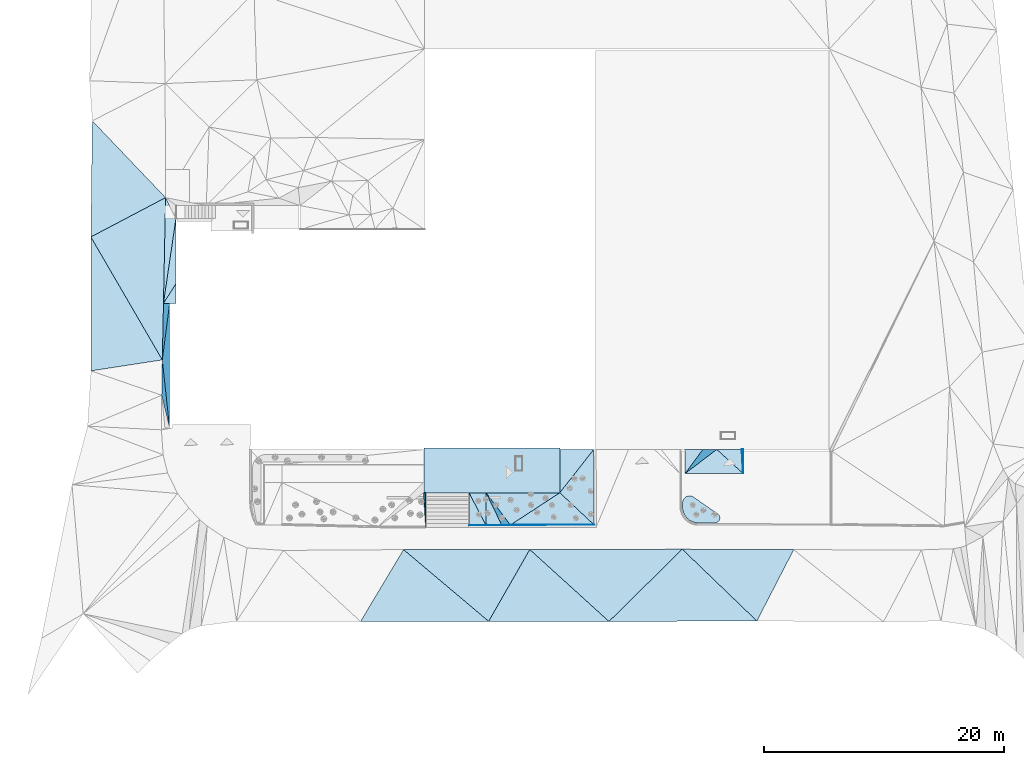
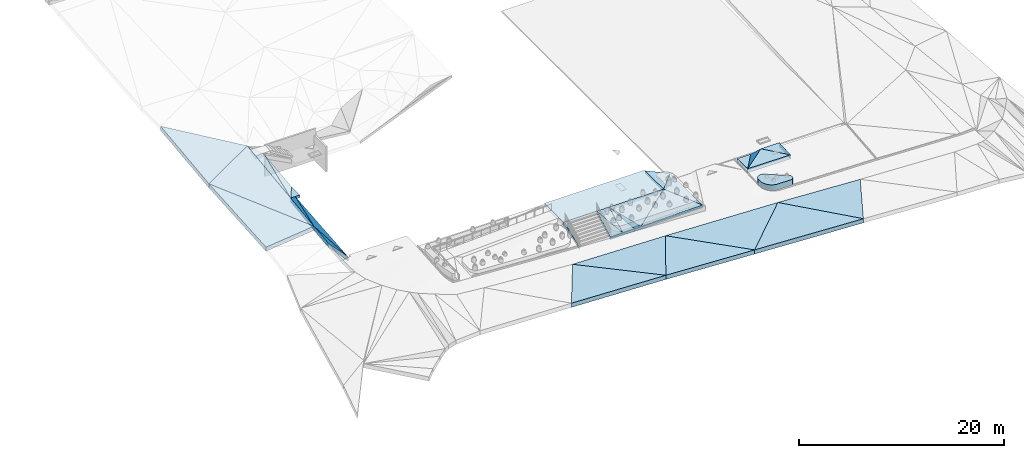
# One storey, part 2 of 23: 33 slabs, 8 elements without a shape of their own.
"""IFC2X3 building model written with IfcOpenShell, lengths in metres."""

from ifc_helpers import new_model, entity, si_unit, converted_unit, direction, frame, frame_2d, origin, place, context, subcontext, project, spatial, polyline, circle_curve, parameter, trimmed, segment, composite_curve, rectangle, outline, extrude, material, layer, layer_set, layer_usage, type_object, element, aggregate, save


model = new_model("IFC2X3")

# Units and contexts
model_context = context("Model", 3, precision=1e-05, world=origin(), true_north=direction((0.7716245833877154, 0.6360782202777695)))
body_context = subcontext(model_context, "Body", "Model", "MODEL_VIEW")
ifc_project = project(units=[si_unit("LENGTHUNIT", "METRE"), converted_unit("PLANEANGLEUNIT", "DEGREE", entity("IfcPlaneAngleMeasure", 0.017453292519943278), si_unit("PLANEANGLEUNIT", "RADIAN"), dimensions=[0, 0, 0, 0, 0, 0, 0]), si_unit("AREAUNIT", "SQUARE_METRE")], contexts=[model_context])

# Site, building, storey
site_placement = place(None, origin())
site = spatial("IfcSite", under=ifc_project, at=site_placement, Name="Default", CompositionType="ELEMENT")
building_placement = place(site_placement, origin())
building = spatial("IfcBuilding", under=site, at=building_placement, Name="<Building Name>", CompositionType="ELEMENT")
storey_placement = place(building_placement, origin())
storey = spatial("IfcBuildingStorey", under=building, at=storey_placement, Name="00 - HAV", CompositionType="ELEMENT", Elevation=0.0)

# Slabs
slab_1_placement = place(storey_placement, frame((222.4392111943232, 65.35219263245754, 32.77999999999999)))
slab_1 = element("IfcSlab", 1, at=slab_1_placement, inside=storey, Name="Floor:771 Grøntarealer", ObjectType="Floor:771 Grøntarealer", PredefinedType="NOTDEFINED")
ifc_material_1 = material(Name="815 - Terrain, Grøntareal")
ifc_layer_1 = layer(ifc_material_1, 0.02)
ifc_material_2 = material(Name="Site - Soil - Jordlag")
ifc_layer_2 = layer(ifc_material_2, 0.30000000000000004)
ifc_layer_set_1 = layer_set([ifc_layer_1, ifc_layer_2], Name="Floor:771 Grøntarealer")
slab_type_1 = type_object("IfcSlabType", Name="Floor:771 Grøntarealer", PredefinedType="NOTDEFINED")
slab_2_placement = place(slab_1_placement, origin())
slab_2 = element("IfcSlab", 2, at=slab_2_placement, type_object=slab_type_1, material=ifc_layer_set_1, Name="Floor:771 Grøntarealer", ObjectType="Floor:771 Grøntarealer", PredefinedType="NOTDEFINED", context=body_context, shape_type="SweptSolid", body=[
    extrude(outline(polyline([(-0.5121274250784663, -0.8002349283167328), (0.5118044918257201, -0.8002349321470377), (0.5121274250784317, 0.8002349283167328), (-0.5121274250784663, -0.8002349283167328)])), frame((0.6429468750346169, 0.8002349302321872, 1.2327956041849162), z_axis=(-0.004305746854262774, 8.687798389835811e-07, 0.9999907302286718), x_axis=(0.9999907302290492, 3.740780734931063e-09, 0.004305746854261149)), (-0.004305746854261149, 8.687878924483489e-07, -0.9999907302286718), 0.3200000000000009),
])
slab_3_placement = place(slab_1_placement, origin())
slab_3 = element("IfcSlab", 3, at=slab_3_placement, type_object=slab_type_1, material=ifc_layer_set_1, Name="Floor:771 Grøntarealer", ObjectType="Floor:771 Grøntarealer", PredefinedType="NOTDEFINED", context=body_context, shape_type="SweptSolid", body=[
    extrude(outline(polyline([(-0.525605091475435, -3.5253848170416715), (0.515767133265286, -1.9359995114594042), (0.5256050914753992, 3.525384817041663), (-0.525605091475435, -3.5253848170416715)])), frame((0.6477849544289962, 3.5112170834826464, 1.5602956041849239), z_axis=(0.18061672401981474, -0.11827817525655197, 0.9764158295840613), x_axis=(0.9835535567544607, 0.02172023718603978, -0.17930597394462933)), (0.17930597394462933, -0.120255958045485, -0.9764158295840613), 0.3200000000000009),
])
slab_4_placement = place(slab_1_placement, origin())
slab_4 = element("IfcSlab", 4, at=slab_4_placement, type_object=slab_type_1, material=ifc_layer_set_1, Name="Floor:771 Grøntarealer", ObjectType="Floor:771 Grøntarealer", PredefinedType="NOTDEFINED", context=body_context, shape_type="SweptSolid", body=[
    extrude(outline(polyline([(-0.08807669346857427, -4.4176086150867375), (0.9459197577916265, 2.635705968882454), (0.08807669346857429, 4.417608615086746), (-0.08807669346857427, -4.4176086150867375)])), frame((0.21889450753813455, 4.397626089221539, 1.6502956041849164), z_axis=(0.012039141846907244, -0.0952391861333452, 0.9953816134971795), x_axis=(0.9999275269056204, 0.0011466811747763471, -0.011984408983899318)), (0.011984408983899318, -0.09524608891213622, -0.9953816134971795), 0.3200000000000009),
])
aggregate(slab_1, [slab_2, slab_3, slab_4])

slab_5_placement = place(storey_placement, frame((215.88810139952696, 30.595880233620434, 28.880000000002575)))
slab_5 = element("IfcSlab", 5, at=slab_5_placement, inside=storey, Name="Floor:761 Asfalt - Kjørearealer", ObjectType="Floor:761 Asfalt - Kjørearealer", PredefinedType="NOTDEFINED")
ifc_material_3 = material(Name="Site - Asphalt - Asfaltbetong")
ifc_layer_3 = layer(ifc_material_3, 0.03)
ifc_material_4 = material(Name="A_Default_Building_Part")
ifc_layer_4 = layer(ifc_material_4, 0.07)
ifc_material_5 = material(Name="Site - Gravel - Stabilitet grus")
ifc_layer_5 = layer(ifc_material_5, 0.2)
ifc_material_6 = material(Name="Site - Gravel - Bunnsikringsgrus")
ifc_layer_6 = layer(ifc_material_6, 0.2)
ifc_layer_set_2 = layer_set([ifc_layer_3, ifc_layer_4, ifc_layer_5, ifc_layer_6], Name="Floor:761 Asfalt - Kjørearealer")
slab_type_2 = type_object("IfcSlabType", Name="Floor:761 Asfalt - Kjørearealer", PredefinedType="NOTDEFINED")
slab_6_placement = place(slab_5_placement, origin())
slab_6 = element("IfcSlab", 6, at=slab_6_placement, type_object=slab_type_2, material=ifc_layer_set_2, Name="Floor:761 Asfalt - Kjørearealer", ObjectType="Floor:761 Asfalt - Kjørearealer", PredefinedType="NOTDEFINED", context=body_context, shape_type="SweptSolid", body=[
    extrude(outline(polyline([(4.659958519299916, 2.948154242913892), (-4.624998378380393, 3.00270159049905), (1.5913248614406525, -2.9848793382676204), (4.659958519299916, 2.948154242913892)])), frame((54.4793851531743, 11.29769866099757, 1.579852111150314), z_axis=(0.04938591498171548, -0.030550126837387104, 0.9983124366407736), x_axis=(0.9987797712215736, 0.0015105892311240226, -0.04936280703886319)), (0.04936280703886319, -0.03058745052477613, -0.9983124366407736), 0.49999999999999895),
])
slab_7_placement = place(slab_5_placement, origin())
slab_7 = element("IfcSlab", 7, at=slab_7_placement, type_object=slab_type_2, material=ifc_layer_set_2, Name="Floor:761 Asfalt - Kjørearealer", ObjectType="Floor:761 Asfalt - Kjørearealer", PredefinedType="NOTDEFINED", context=body_context, shape_type="SweptSolid", body=[
    extrude(outline(polyline([(6.345283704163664, 3.0093155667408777), (-6.3542572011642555, 2.990321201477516), (0.24219244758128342, -2.9994628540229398), (6.345283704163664, 3.0093155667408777)])), frame((43.51948031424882, 11.278565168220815, 2.0875858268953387), z_axis=(0.038619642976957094, -0.019067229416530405, 0.9990720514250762), x_axis=(0.9992539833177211, 0.0007369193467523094, -0.038612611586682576)), (0.038612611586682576, -0.01908146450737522, -0.9990720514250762), 0.49999999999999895),
])
slab_8_placement = place(slab_5_placement, origin())
slab_8 = element("IfcSlab", 8, at=slab_8_placement, type_object=slab_type_2, material=ifc_layer_set_2, Name="Floor:761 Asfalt - Kjørearealer", ObjectType="Floor:761 Asfalt - Kjørearealer", PredefinedType="NOTDEFINED", context=body_context, shape_type="SweptSolid", body=[
    extrude(outline(polyline([(-0.05516787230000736, 5.996623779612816), (-6.161237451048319, -0.009128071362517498), (6.161237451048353, 0.009128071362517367), (-0.05516787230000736, 5.996623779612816)])), frame((49.915130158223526, 8.298223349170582, 1.7154999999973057), z_axis=(0.049651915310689, -0.030273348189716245, 0.9983076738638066), x_axis=(0.998766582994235, 0.0015049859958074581, -0.049629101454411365)), (0.049629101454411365, -0.03031073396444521, -0.9983076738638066), 0.49999999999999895),
])
slab_9_placement = place(slab_5_placement, origin())
slab_9 = element("IfcSlab", 9, at=slab_9_placement, type_object=slab_type_2, material=ifc_layer_set_2, Name="Floor:761 Asfalt - Kjørearealer", ObjectType="Floor:761 Asfalt - Kjørearealer", PredefinedType="NOTDEFINED", context=body_context, shape_type="SweptSolid", body=[
    extrude(outline(polyline([(5.2538422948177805, 2.98736928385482), (-5.256503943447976, 2.9826834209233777), (1.8291199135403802, -2.984211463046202), (5.2538422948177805, 2.98736928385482)])), frame((31.917854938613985, 11.27656791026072, 2.530977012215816), z_axis=(0.02568812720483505, 0.0020131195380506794, 0.9996679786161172), x_axis=(0.9996700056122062, -5.173034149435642e-05, -0.02568807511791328)), (0.02568807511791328, 0.002013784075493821, -0.9996679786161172), 0.49999999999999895),
])
slab_10_placement = place(slab_5_placement, origin())
slab_10 = element("IfcSlab", 10, at=slab_10_placement, type_object=slab_type_2, material=ifc_layer_set_2, Name="Floor:761 Asfalt - Kjørearealer", ObjectType="Floor:761 Asfalt - Kjørearealer", PredefinedType="NOTDEFINED", context=body_context, shape_type="SweptSolid", body=[
    extrude(outline(polyline([(-2.060447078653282, 5.151709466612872), (-5.487788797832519, -0.8183683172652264), (4.538300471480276, -0.835542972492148), (-2.060447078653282, 5.151709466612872)])), frame((39.228156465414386, 9.113184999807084, 2.241648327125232), z_axis=(0.04676305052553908, -0.010083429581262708, 0.9988551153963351), x_axis=(0.9989060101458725, 0.0004720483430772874, -0.04676066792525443)), (0.04676066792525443, -0.010094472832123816, -0.9988551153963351), 0.49999999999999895),
])
slab_11_placement = place(slab_5_placement, origin())
slab_11 = element("IfcSlab", 11, at=slab_11_placement, type_object=slab_type_2, material=ifc_layer_set_2, Name="Floor:761 Asfalt - Kjørearealer", ObjectType="Floor:761 Asfalt - Kjørearealer", PredefinedType="NOTDEFINED", context=body_context, shape_type="SweptSolid", body=[
    extrude(outline(polyline([(-2.1315307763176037, 5.342138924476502), (-5.715322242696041, -0.6457270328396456), (4.956978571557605, -0.6213277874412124), (-2.1315307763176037, 5.342138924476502)])), frame((28.793045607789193, 8.91676043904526, 2.6696075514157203), z_axis=(0.03838370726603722, 0.017098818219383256, 0.9991167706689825), x_axis=(0.999263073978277, -0.0006568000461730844, -0.038378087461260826)), (0.038378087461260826, 0.017111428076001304, -0.9991167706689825), 0.49999999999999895),
])
aggregate(slab_5, [slab_6, slab_7, slab_8, slab_9, slab_10, slab_11])

slab_12_placement = place(storey_placement, frame((210.63176110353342, 32.75602782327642, 31.369999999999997)))
slab_12 = element("IfcSlab", 12, at=slab_12_placement, inside=storey, Name="Floor:761 Asfalt - Kjørearealer", ObjectType="Floor:761 Asfalt - Kjørearealer", PredefinedType="NOTDEFINED")
slab_13_placement = place(slab_12_placement, origin())
slab_13 = element("IfcSlab", 13, at=slab_13_placement, type_object=slab_type_2, material=ifc_layer_set_2, Name="Floor:761 Asfalt - Kjørearealer", ObjectType="Floor:761 Asfalt - Kjørearealer", PredefinedType="NOTDEFINED", context=body_context, shape_type="SweptSolid", body=[
    extrude(outline(polyline([(-3.0279742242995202, 4.894513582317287), (-3.148657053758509, -4.817763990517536), (3.069850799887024, -1.5243827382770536), (-3.0279742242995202, 4.894513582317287)])), frame((9.044632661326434, 42.91023792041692, 3.6117064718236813), z_axis=(-0.0066829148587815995, -0.09978873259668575, 0.9949862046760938), x_axis=(0.9999776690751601, -0.0006668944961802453, 0.006649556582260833)), (-0.006649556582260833, -0.09979096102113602, -0.9949862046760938), 0.49999999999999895),
])
slab_14_placement = place(slab_12_placement, origin())
slab_14 = element("IfcSlab", 14, at=slab_14_placement, type_object=slab_type_2, material=ifc_layer_set_2, Name="Floor:761 Asfalt - Kjørearealer", ObjectType="Floor:761 Asfalt - Kjørearealer", PredefinedType="NOTDEFINED", context=body_context, shape_type="SweptSolid", body=[
    extrude(outline(polyline([(-2.9760973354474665, 5.58465898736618), (-2.962558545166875, -5.591852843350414), (2.9750140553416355, -4.690392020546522), (-2.9760973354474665, 5.58465898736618)])), frame((8.870524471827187, 32.55574165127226, 2.607594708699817), z_axis=(0.032978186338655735, -0.07239417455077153, 0.9968307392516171), x_axis=(0.9994560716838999, 0.0023887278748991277, -0.03289156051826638)), (0.03289156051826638, -0.07243357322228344, -0.9968307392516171), 0.49999999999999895),
])
slab_15_placement = place(slab_12_placement, origin())
slab_15 = element("IfcSlab", 15, at=slab_15_placement, type_object=slab_type_2, material=ifc_layer_set_2, Name="Floor:761 Asfalt - Kjørearealer", ObjectType="Floor:761 Asfalt - Kjørearealer", PredefinedType="NOTDEFINED", context=body_context, shape_type="SweptSolid", body=[
    extrude(outline(polyline([(-6.01700216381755, 3.377172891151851), (-0.06891264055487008, -6.899627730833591), (0.20159171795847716, 6.670391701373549), (-6.01700216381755, 3.377172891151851)])), frame((11.912830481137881, 34.75223575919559, 2.8354838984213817), z_axis=(-0.008504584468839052, -0.0963641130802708, 0.9953098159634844), x_axis=(0.9999638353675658, -0.000819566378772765, 0.008465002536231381)), (-0.008465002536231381, -0.09636759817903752, -0.9953098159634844), 0.49999999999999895),
])
aggregate(slab_12, [slab_13, slab_14, slab_15])

slab_16_placement = place(storey_placement, frame((222.42669369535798, 54.972793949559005, 32.49999999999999)))
slab_16 = element("IfcSlab", 16, at=slab_16_placement, inside=storey, Name="Floor:761 Asfalt - Kjørearealer", ObjectType="Floor:761 Asfalt - Kjørearealer", PredefinedType="NOTDEFINED")
slab_17_placement = place(slab_16_placement, origin())
slab_17 = element("IfcSlab", 17, at=slab_17_placement, type_object=slab_type_2, material=ifc_layer_set_2, Name="Floor:761 Asfalt - Kjørearealer", ObjectType="Floor:761 Asfalt - Kjørearealer", PredefinedType="NOTDEFINED", context=body_context, shape_type="SweptSolid", body=[
    extrude(outline(polyline([(0.3037382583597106, 2.3675404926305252), (-0.20938343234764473, 2.3673203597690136), (-0.3037382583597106, -2.3675404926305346), (0.3037382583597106, 2.3675404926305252)])), frame((0.35272319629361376, 8.023704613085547, 1.2765483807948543), z_axis=(-0.004296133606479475, -0.09936377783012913, 0.9950419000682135), x_axis=(0.9999907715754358, -0.0004268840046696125, 0.0042748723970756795)), (-0.0042748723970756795, -0.09936469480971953, -0.9950419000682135), 0.49999999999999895),
])
slab_18_placement = place(slab_16_placement, origin())
slab_18 = element("IfcSlab", 18, at=slab_18_placement, type_object=slab_type_2, material=ifc_layer_set_2, Name="Floor:761 Asfalt - Kjørearealer", ObjectType="Floor:761 Asfalt - Kjørearealer", PredefinedType="NOTDEFINED", context=body_context, shape_type="SweptSolid", body=[
    extrude(outline(polyline([(0.0, 5.210503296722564), (-0.6095758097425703, 0.4756921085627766), (0.0, -5.210503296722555), (0.0, 5.210503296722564)])), frame((0.6564586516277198, 5.189699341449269, 1.047945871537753), z_axis=(-0.08303124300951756, -0.08896351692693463, 0.9925680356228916), x_axis=(0.9965469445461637, -0.007412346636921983, 0.08269972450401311)), (-0.08269972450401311, -0.08927177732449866, -0.9925680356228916), 0.49999999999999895),
])
slab_19_placement = place(slab_16_placement, origin())
slab_19 = element("IfcSlab", 19, at=slab_19_placement, type_object=slab_type_2, material=ifc_layer_set_2, Name="Floor:761 Asfalt - Kjørearealer", ObjectType="Floor:761 Asfalt - Kjørearealer", PredefinedType="NOTDEFINED", context=body_context, shape_type="SweptSolid", body=[
    extrude(outline(polyline([(-0.3043133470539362, 2.8431485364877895), (-0.35339429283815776, -0.11165958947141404), (0.3043133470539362, -2.8431485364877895), (-0.3043133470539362, 2.8431485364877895)])), frame((0.35272319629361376, 2.8340052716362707, 0.8113974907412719), z_axis=(-0.06159868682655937, -0.08680770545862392, 0.9943188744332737), x_axis=(0.9981009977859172, -0.005357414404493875, 0.06136526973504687)), (-0.06136526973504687, -0.08697286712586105, -0.9943188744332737), 0.49999999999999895),
])
aggregate(slab_16, [slab_17, slab_18, slab_19])

slab_20_placement = place(storey_placement, frame((232.41792444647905, 46.699262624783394, 31.5084352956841)))
slab_20 = element("IfcSlab", 20, at=slab_20_placement, inside=storey, Name="Floor:771 Grøntarealer 2", ObjectType="Floor:771 Grøntarealer 2", PredefinedType="NOTDEFINED")
ifc_layer_7 = layer(ifc_material_1, 0.02)
ifc_layer_8 = layer(ifc_material_2, 0.30000000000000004)
ifc_layer_set_3 = layer_set([ifc_layer_7, ifc_layer_8], Name="Floor:771 Grøntarealer 2")
slab_type_3 = type_object("IfcSlabType", Name="Floor:771 Grøntarealer 2", PredefinedType="NOTDEFINED")
slab_21_placement = place(slab_20_placement, origin())
slab_21 = element("IfcSlab", 21, at=slab_21_placement, type_object=slab_type_3, material=ifc_layer_set_3, Name="Floor:771 Grøntarealer 2", ObjectType="Floor:771 Grøntarealer 2", PredefinedType="NOTDEFINED", context=body_context, shape_type="SweptSolid", body=[
    extrude(outline(polyline([(-0.18490922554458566, 1.5707071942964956), (0.00031867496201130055, -1.5815537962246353), (0.00031867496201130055, 1.5707071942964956), (-0.18490922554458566, 1.5707071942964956)])), frame((11.984909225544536, 1.4497124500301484, 0.957970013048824), z_axis=(0.0, -0.4033817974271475, 0.9150317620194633), x_axis=(1.0, 0.0, 0.0)), (0.0, -0.4033817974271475, -0.9150317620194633), 0.3200000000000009),
])
aggregate(slab_20, [slab_21])

slab_22_placement = place(storey_placement, frame((248.00315234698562, 46.8987892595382, 31.31531004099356)))
slab_22 = element("IfcSlab", 22, at=slab_22_placement, inside=storey, Name="Floor:771 Grøntarealer 2", ObjectType="Floor:771 Grøntarealer 2", PredefinedType="NOTDEFINED")
slab_23_placement = place(slab_22_placement, origin())
slab_23 = element("IfcSlab", 23, at=slab_23_placement, type_object=slab_type_3, material=ifc_layer_set_3, Name="Floor:771 Grøntarealer 2", ObjectType="Floor:771 Grøntarealer 2", PredefinedType="NOTDEFINED", context=body_context, shape_type="SweptSolid", body=[
    extrude(outline(polyline([(-1.5511281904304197, 1.7999542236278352), (-1.5511281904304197, -0.5509207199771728), (-1.5511281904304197, -1.7999542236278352), (1.5511281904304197, 1.7999542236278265), (-1.5511281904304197, 1.7999542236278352)])), frame((8.964559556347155, 4.487387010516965, 1.1377757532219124), z_axis=(0.4170604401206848, 0.0, 0.9088787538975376), x_axis=(0.9088787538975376, 0.0, -0.4170604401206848)), (0.4170604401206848, 0.0, -0.9088787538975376), 0.3200000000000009),
])
slab_24_placement = place(slab_22_placement, origin())
slab_24 = element("IfcSlab", 24, at=slab_24_placement, type_object=slab_type_3, material=ifc_layer_set_3, Name="Floor:771 Grøntarealer 2", ObjectType="Floor:771 Grøntarealer 2", PredefinedType="NOTDEFINED", context=body_context, shape_type="SweptSolid", body=[
    extrude(outline(polyline([(-3.125146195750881, 0.06210006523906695), (-3.847318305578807, 0.06144113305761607), (3.8473183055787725, -0.06144113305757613), (-3.125146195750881, 0.06210006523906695)])), frame((6.56923411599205, 0.004138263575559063, 0.4274228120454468), z_axis=(-0.004153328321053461, 0.9767002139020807, 0.21456803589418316), x_axis=(0.9999913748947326, 0.004056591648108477, 0.0008911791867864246)), (-0.0008911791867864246, 0.9767086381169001, -0.21456803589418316), 0.3200000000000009),
])
slab_25_placement = place(slab_22_placement, origin())
slab_25 = element("IfcSlab", 25, at=slab_25_placement, type_object=slab_type_3, material=ifc_layer_set_3, Name="Floor:771 Grøntarealer 2", ObjectType="Floor:771 Grøntarealer 2", PredefinedType="NOTDEFINED", context=body_context, shape_type="SweptSolid", body=[
    extrude(outline(polyline([(-3.474071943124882, -1.5293480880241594), (3.4992415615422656, -1.4708466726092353), (0.6371212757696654, 1.5055479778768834), (-3.474071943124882, -1.5293480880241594)])), frame((6.917733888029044, 1.3464705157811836, 1.1001457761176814), z_axis=(-0.016147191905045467, -0.44851545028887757, 0.8936292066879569), x_axis=(0.9998696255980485, -0.00724320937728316, 0.014431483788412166)), (-0.014431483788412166, -0.44857393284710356, -0.8936292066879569), 0.3200000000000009),
])
slab_26_placement = place(slab_22_placement, origin())
slab_26 = element("IfcSlab", 26, at=slab_26_placement, type_object=slab_type_3, material=ifc_layer_set_3, Name="Floor:771 Grøntarealer 2", ObjectType="Floor:771 Grøntarealer 2", PredefinedType="NOTDEFINED", context=body_context, shape_type="SweptSolid", body=[
    extrude(outline(polyline([(1.2648561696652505, -1.3505595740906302), (-0.7644906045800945, 1.6850597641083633), (0.5426888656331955, -1.3532753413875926), (1.2648561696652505, -1.3505595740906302)])), frame((2.179261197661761, 1.197970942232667, 0.9966974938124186), z_axis=(0.0019851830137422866, -0.46683732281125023, 0.8843409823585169), x_axis=(0.9999980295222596, 0.0009267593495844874, -0.0017555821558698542)), (0.0017555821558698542, -0.46683824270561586, -0.8843409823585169), 0.3200000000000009),
])
slab_27_placement = place(slab_22_placement, origin())
slab_27 = element("IfcSlab", 27, at=slab_27_placement, type_object=slab_type_3, material=ifc_layer_set_3, Name="Floor:771 Grøntarealer 2", ObjectType="Floor:771 Grøntarealer 2", PredefinedType="NOTDEFINED", context=body_context, shape_type="SweptSolid", body=[
    extrude(outline(polyline([(-0.9719375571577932, -2.9848741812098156), (3.1387196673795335, 0.050747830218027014), (-3.0012803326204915, 0.05074783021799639), (-0.9719375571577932, -2.9848741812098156)])), frame((4.416052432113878, 2.642585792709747, 1.7609393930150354), z_axis=(0.0, -0.4680114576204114, 0.8837223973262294), x_axis=(1.0, 0.0, 0.0)), (0.0, -0.4680114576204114, -0.8837223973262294), 0.3200000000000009),
])
slab_28_placement = place(slab_22_placement, origin())
slab_28 = element("IfcSlab", 28, at=slab_28_placement, type_object=slab_type_3, material=ifc_layer_set_3, Name="Floor:771 Grøntarealer 2", ObjectType="Floor:771 Grøntarealer 2", PredefinedType="NOTDEFINED", context=body_context, shape_type="SweptSolid", body=[
    extrude(outline(polyline([(-0.667544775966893, -1.5168697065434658), (0.6622631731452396, -1.5191830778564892), (-0.6449142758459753, 1.5191528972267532), (-0.667544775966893, -1.5168697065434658)])), frame((2.0596861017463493, 1.3445908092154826, 1.0743370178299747), z_axis=(-0.0009211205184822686, -0.4679434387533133, 0.8837579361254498), x_axis=(0.9999995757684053, -0.00043103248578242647, 0.0008140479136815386)), (-0.0008140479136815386, -0.46794363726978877, -0.8837579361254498), 0.3200000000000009),
])
slab_29_placement = place(slab_22_placement, origin())
slab_29 = element("IfcSlab", 29, at=slab_29_placement, type_object=slab_type_3, material=ifc_layer_set_3, Name="Floor:771 Grøntarealer 2", ObjectType="Floor:771 Grøntarealer 2", PredefinedType="NOTDEFINED", context=body_context, shape_type="SweptSolid", body=[
    extrude(outline(polyline([(0.6960315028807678, -1.5232838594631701), (0.7186619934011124, 1.512738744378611), (-0.6961101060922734, 1.5127387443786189), (0.6960315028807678, -1.5232838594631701)])), frame((0.6961101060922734, 1.3505422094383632, 1.0768043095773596), z_axis=(0.0, -0.4679497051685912, 0.8837550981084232), x_axis=(1.0, 0.0, 0.0)), (0.0, -0.4679497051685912, -0.8837550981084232), 0.3200000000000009),
])
slab_30_placement = place(slab_22_placement, origin())
slab_30 = element("IfcSlab", 30, at=slab_30_placement, type_object=slab_type_3, material=ifc_layer_set_3, Name="Floor:771 Grøntarealer 2", ObjectType="Floor:771 Grøntarealer 2", PredefinedType="NOTDEFINED", context=body_context, shape_type="SweptSolid", body=[
    extrude(outline(polyline([(1.2762762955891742, -1.2518522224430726), (-0.11634496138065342, 1.7839503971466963), (-0.11634496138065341, -1.2767050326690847), (1.2762762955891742, -1.2518522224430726)])), frame((0.11630488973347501, 1.119559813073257, 0.9336537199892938), z_axis=(-0.02624353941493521, -0.47838952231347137, 0.8777555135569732), x_axis=(0.9996555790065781, -0.012558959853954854, 0.023043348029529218)), (-0.023043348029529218, -0.4785543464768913, -0.8777555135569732), 0.3200000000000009),
])
slab_31_placement = place(slab_22_placement, origin())
slab_31 = element("IfcSlab", 31, at=slab_31_placement, type_object=slab_type_3, material=ifc_layer_set_3, Name="Floor:771 Grøntarealer 2", ObjectType="Floor:771 Grøntarealer 2", PredefinedType="NOTDEFINED", context=body_context, shape_type="SweptSolid", body=[
    extrude(outline(polyline([(0.03116717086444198, 0.022264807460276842), (-1.3609770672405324, -0.021849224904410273), (1.3609770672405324, 0.021849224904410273), (0.03116717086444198, 0.022264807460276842)])), frame((1.3609744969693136, 0.0008573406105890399, 0.34199203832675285), z_axis=(-0.0019434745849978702, -0.9873150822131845, 0.1587613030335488), x_axis=(0.9999981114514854, -0.001918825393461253, 0.0003085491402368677)), (-0.0003085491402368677, -0.9873169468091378, -0.1587613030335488), 0.3200000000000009),
])
slab_32_placement = place(slab_22_placement, origin())
slab_32 = element("IfcSlab", 32, at=slab_32_placement, type_object=slab_type_3, material=ifc_layer_set_3, Name="Floor:771 Grøntarealer 2", ObjectType="Floor:771 Grøntarealer 2", PredefinedType="NOTDEFINED", context=body_context, shape_type="SweptSolid", body=[
    extrude(outline(polyline([(1.5852150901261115, -3.128852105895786), (1.5388832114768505, 3.151897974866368), (-1.558800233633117, -0.45194618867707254), (1.5852150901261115, -3.128852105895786)])), frame((8.973623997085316, 3.1374048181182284, 1.1377757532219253), z_axis=(0.41412398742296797, 0.002780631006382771, 0.9102162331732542), x_axis=(0.910220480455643, -0.001265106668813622, -0.41412205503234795)), (0.41412205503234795, 0.003054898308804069, -0.9102162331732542), 0.3200000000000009),
])
aggregate(slab_22, [slab_23, slab_24, slab_25, slab_26, slab_27, slab_28, slab_29, slab_30, slab_31, slab_32])

# Slab
ifc_material_7 = material(Name="Site - Concrete - Betongbelegg")
ifc_layer_9 = layer(ifc_material_7, 0.08)
ifc_material_8 = material(Name="Site - Sand - Afretningssand")
ifc_layer_10 = layer(ifc_material_8, 0.03)
ifc_layer_11 = layer(ifc_material_5, 0.15000000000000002)
ifc_layer_12 = layer(ifc_material_6, 0.15000000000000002)
ifc_layer_set_4 = layer_set([ifc_layer_9, ifc_layer_10, ifc_layer_11, ifc_layer_12], Name="Floor:761 Betongbelegg - Gangarealer")
ifc_layer_usage = layer_usage(ifc_layer_set_4, "AXIS3", "POSITIVE", 0.0)
slab_type_4 = type_object("IfcSlabType", Name="Floor:761 Betongbelegg - Gangarealer", PredefinedType="FLOOR", material=ifc_layer_set_4)
slab_33_placement = place(storey_placement, origin())
element("IfcSlab", 33, at=slab_33_placement, inside=storey, type_object=slab_type_4, material=ifc_layer_usage, Name="Floor:761 Betongbelegg - Gangarealer", ObjectType="Floor:761 Betongbelegg - Gangarealer", PredefinedType="FLOOR", context=body_context, shape_type="SweptSolid", body=[
    extrude(rectangle(XDim=3.729033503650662, YDim=11.304772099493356, at=frame_2d((-4.3298697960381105e-15, 1.7319479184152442e-14), x_axis=(1.0, 0.0))), frame((249.90553839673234, 51.450738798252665, 33.1), z_axis=(0.0, 0.0, -1.0), x_axis=(0.0, 1.0, 0.0)), (0.0, 0.0, 1.0), 0.4100000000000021),
])

# Slabs
slab_34_placement = place(storey_placement, frame((265.9530017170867, 51.19163086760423, 30.37010664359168)))
slab_34 = element("IfcSlab", 34, at=slab_34_placement, inside=storey, Name="Floor:761 Asfalt - Gangarealer", ObjectType="Floor:761 Asfalt - Gangarealer", PredefinedType="NOTDEFINED")
ifc_material_9 = material(Name="Site - Aspahlt - Pulverasfalt")
ifc_layer_13 = layer(ifc_material_9, 0.025)
ifc_layer_14 = layer(ifc_material_4, 0.05)
ifc_layer_15 = layer(ifc_material_5, 0.1)
ifc_layer_16 = layer(ifc_material_6, 0.325)
ifc_layer_set_5 = layer_set([ifc_layer_13, ifc_layer_14, ifc_layer_15, ifc_layer_16], Name="Floor:761 Asfalt - Gangarealer")
slab_type_5 = type_object("IfcSlabType", Name="Floor:761 Asfalt - Gangarealer", PredefinedType="NOTDEFINED")
slab_35_placement = place(slab_34_placement, origin())
slab_35 = element("IfcSlab", 35, at=slab_35_placement, type_object=slab_type_5, material=ifc_layer_set_5, Name="Floor:761 Asfalt - Gangarealer", ObjectType="Floor:761 Asfalt - Gangarealer", PredefinedType="NOTDEFINED", context=body_context, shape_type="SweptSolid", body=[
    extrude(outline(polyline([(-1.134117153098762, -1.2619329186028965), (1.5547299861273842, 0.6793460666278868), (0.37689426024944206, 0.715237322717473), (-1.134117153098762, -1.2619329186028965)])), frame((1.1458447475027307, 1.2818204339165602, 0.5641872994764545), z_axis=(-0.2006135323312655, 0.1479790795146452, 0.9684298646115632), x_axis=(0.9796704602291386, 0.030302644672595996, 0.19831172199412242)), (-0.19831172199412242, 0.15104985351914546, -0.9684298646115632), 0.49999999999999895),
])
slab_36_placement = place(slab_34_placement, origin())
slab_36 = element("IfcSlab", 36, at=slab_36_placement, type_object=slab_type_5, material=ifc_layer_set_5, Name="Floor:761 Asfalt - Gangarealer", ObjectType="Floor:761 Asfalt - Gangarealer", PredefinedType="NOTDEFINED", context=body_context, shape_type="SweptSolid", body=[
    extrude(outline(polyline([(-0.25074554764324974, -1.3623251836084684), (1.229573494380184, 0.6379280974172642), (-0.2855298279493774, 0.637693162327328), (-0.25074554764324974, -1.3623251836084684)])), frame((0.2855248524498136, 1.3623162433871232, 0.5350460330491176), z_axis=(0.005903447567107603, -0.004868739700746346, 0.9999707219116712), x_axis=(0.9999825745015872, 2.8742850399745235e-05, -0.005903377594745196)), (0.005903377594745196, -0.0048688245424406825, -0.9999707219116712), 0.49999999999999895),
])
slab_37_placement = place(slab_34_placement, origin())
slab_37 = element("IfcSlab", 37, at=slab_37_placement, type_object=slab_type_5, material=ifc_layer_set_5, Name="Floor:761 Asfalt - Gangarealer", ObjectType="Floor:761 Asfalt - Gangarealer", PredefinedType="NOTDEFINED", context=body_context, shape_type="SweptSolid", body=[
    extrude(outline(polyline([(-2.408341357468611, -1.0067194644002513), (2.4071175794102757, -1.0096420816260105), (0.22589307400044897, 1.0080440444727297), (-2.408341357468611, -1.0067194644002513)])), frame((2.443079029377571, 1.0004426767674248, 0.6431192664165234), z_axis=(0.006180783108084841, -0.1271338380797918, 0.9918663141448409), x_axis=(0.9999808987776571, 0.0007858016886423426, -0.0061306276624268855)), (0.0061306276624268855, -0.12713626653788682, -0.9918663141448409), 0.49999999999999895),
])
slab_38_placement = place(slab_34_placement, origin())
slab_38 = element("IfcSlab", 38, at=slab_38_placement, type_object=slab_type_5, material=ifc_layer_set_5, Name="Floor:761 Asfalt - Gangarealer", ObjectType="Floor:761 Asfalt - Gangarealer", PredefinedType="NOTDEFINED", context=body_context, shape_type="SweptSolid", body=[
    extrude(outline(polyline([(-1.569732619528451, 0.49091027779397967), (0.6114502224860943, -1.5268208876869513), (0.5079679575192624, 0.4912887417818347), (-1.569732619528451, 0.49091027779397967)])), frame((4.238700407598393, 1.513988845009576, 0.7042034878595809), z_axis=(2.458124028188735e-05, -0.13373447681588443, 0.9910171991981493), x_axis=(1.0, 3.28735930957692e-06, -2.4360431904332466e-05)), (2.4360431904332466e-05, -0.13373447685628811, -0.9910171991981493), 0.49999999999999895),
])
slab_39_placement = place(slab_34_placement, origin())
slab_39 = element("IfcSlab", 39, at=slab_39_placement, type_object=slab_type_5, material=ifc_layer_set_5, Name="Floor:761 Asfalt - Gangarealer", ObjectType="Floor:761 Asfalt - Gangarealer", PredefinedType="NOTDEFINED", context=body_context, shape_type="SweptSolid", body=[
    extrude(outline(polyline([(-0.17282645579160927, 0.9992162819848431), (0.001031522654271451, -1.014051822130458), (0.0010315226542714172, 0.9901618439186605), (-0.17282645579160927, 0.9992162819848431)])), frame((4.849536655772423, 1.0127512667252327, 0.5665479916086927), z_axis=(0.8035690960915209, -0.038575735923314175, 0.5939601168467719), x_axis=(0.5952114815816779, 0.052079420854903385, -0.8018796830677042)), (0.8018796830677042, -0.064810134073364, -0.5939601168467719), 0.49999999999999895),
])
aggregate(slab_34, [slab_35, slab_36, slab_37, slab_38, slab_39])

# Roof, slab
ifc_material_10 = material(Name="Planting - Shrubs and hedges - Busker")
ifc_layer_17 = layer(ifc_material_10, 0.7000000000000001)
ifc_layer_set_6 = layer_set([ifc_layer_17], Name="Basic Roof:772 Stauder, Geranium phaeum (Storkenæb Bølgekronede)")
roof_placement = place(storey_placement, frame((265.7748519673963, 47.08645720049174, 30.5)))
roof = element("IfcRoof", 40, at=roof_placement, inside=storey, material=ifc_layer_set_6, Name="Basic Roof:772 Stauder, Geranium phaeum (Storkenæb Bølgekronede)", ObjectType="Basic Roof:772 Stauder, Geranium phaeum (Storkenæb Bølgekronede)", ShapeType="NOTDEFINED")
type_product = type_object("IfcTypeProduct", Name="Basic Roof:772 Stauder, Geranium phaeum (Storkenæb Bølgekronede)")
slab_40_placement = place(roof_placement, origin())
slab_40 = element("IfcSlab", 41, at=slab_40_placement, type_object=type_product, material=ifc_layer_set_6, Name="Basic Roof:772 Stauder, Geranium phaeum (Storkenæb Bølgekronede)", ObjectType="Basic Roof:772 Stauder, Geranium phaeum (Storkenæb Bølgekronede)", PredefinedType="ROOF", context=body_context, shape_type="SweptSolid", body=[
    extrude(outline(composite_curve([segment(trimmed(circle_curve(frame_2d((1.1492276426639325, -0.7209758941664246), x_axis=(1.0, 0.0)), 0.4), [parameter(269.95391888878)], [parameter(54.999999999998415)], True, "PARAMETER"), True, "CONTINUOUS"), segment(polyline([(1.3786582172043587, -0.39331507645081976), (-0.6337099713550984, 1.0157602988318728)]), True, "CONTINUOUS"), segment(trimmed(circle_curve(frame_2d((-0.96741867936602, 0.5391748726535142), x_axis=(1.0, 0.0)), 0.5818033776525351), [parameter(54.999999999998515)], [parameter(180.00000000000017)], True, "PARAMETER"), True, "CONTINUOUS"), segment(polyline([(-1.5492220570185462, 0.5391748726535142), (-1.5492220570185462, 0.18014912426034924)]), True, "CONTINUOUS"), segment(trimmed(circle_curve(frame_2d((-0.2492220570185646, 0.1801491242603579), x_axis=(1.0, 0.0)), 1.3), [parameter(180.0000000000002)], [parameter(269.9539188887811)], True, "PARAMETER"), True, "CONTINUOUS"), segment(polyline([(-0.25026760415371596, -1.1198504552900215), (1.1489059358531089, -1.1209757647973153)]), True, "CONTINUOUS")], self_intersect=False)), frame((1.5492220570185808, 1.1209757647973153, 0.0)), (0.0, 0.0, 1.0), 0.7000000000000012),
])
aggregate(roof, [slab_40])

save(model, "model.ifc")
